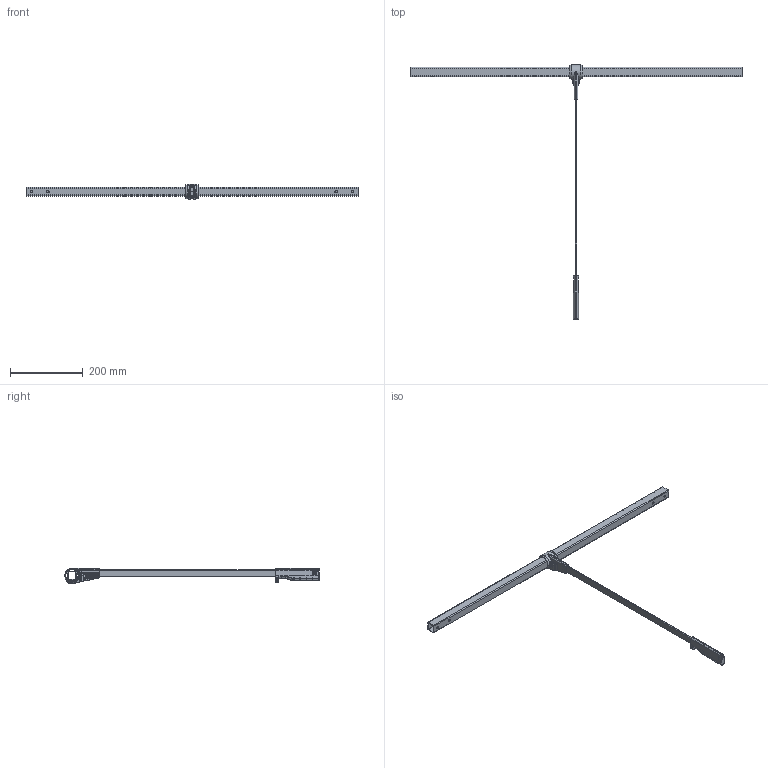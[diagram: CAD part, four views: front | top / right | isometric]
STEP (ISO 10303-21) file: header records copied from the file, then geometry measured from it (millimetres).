
FILE_DESCRIPTION((''),'2;1');
FILE_NAME('238278-MITTE-985-1168_SW0001','2023-02-06T09:58:32',('1ke04'),('Kesseboehmer'),'CREO PARAMETRIC BY PTC INC, 2020414','CREO PARAMETRIC BY PTC INC, 2020414','');
FILE_SCHEMA(('AUTOMOTIVE_DESIGN { 1 0 10303 214 1 1 1 1 }'));
Length unit declared in the file: millimetre
Products named in the file (1): 238278-MITTE-985-1168_SW0001
Bounding box: 910 x 697.84 x 41.7 mm (x, y, z)
Volume: 301629 mm3; surface area: 219880.8 mm2
Topology: 2 solids, 2 shells, 769 faces, 1962 edges, 1197 vertices
Faces by surface type: plane 285, cylinder 257, bspline 94, torus 87, cone 26, sphere 20
Entity records: 33965 total; most frequent: CARTESIAN_POINT 12066, ORIENTED_EDGE 3924, DIRECTION 3690, EDGE_CURVE 1962, AXIS2_PLACEMENT_3D 1361, VERTEX_POINT 1197, VECTOR 965, LINE 965
